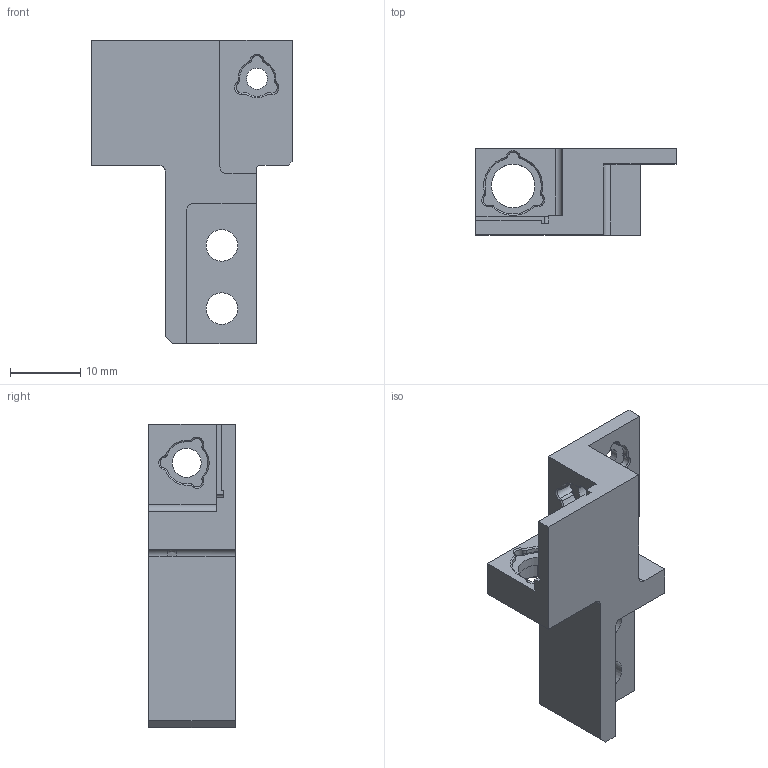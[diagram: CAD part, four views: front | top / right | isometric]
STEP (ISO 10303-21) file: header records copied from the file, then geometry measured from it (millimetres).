
FILE_DESCRIPTION (( 'STEP AP214' ), '1' );
FILE_NAME ('CBMS-002×ó²à¾µ×ù V3.STEP', '2026-04-26T14:40:54', ( '' ), ( '' ), 'SwSTEP 2.0', 'SolidWorks 2022', '' );
FILE_SCHEMA (( 'AUTOMOTIVE_DESIGN' ));
Length unit declared in the file: millimetre
Products named in the file (1): CBMS-002左侧镜座 V3
Bounding box: 28.5 x 12.3 x 43.2 mm (x, y, z)
Volume: 4753.7 mm3; surface area: 3703.4 mm2
Topology: 1 solids, 1 shells, 212 faces, 551 edges, 346 vertices
Faces by surface type: cylinder 97, cone 63, plane 46, bspline 6
Entity records: 6853 total; most frequent: CARTESIAN_POINT 1415, DIRECTION 1233, ORIENTED_EDGE 1102, EDGE_CURVE 551, AXIS2_PLACEMENT_3D 493, VERTEX_POINT 346, CIRCLE 286, LINE 247
